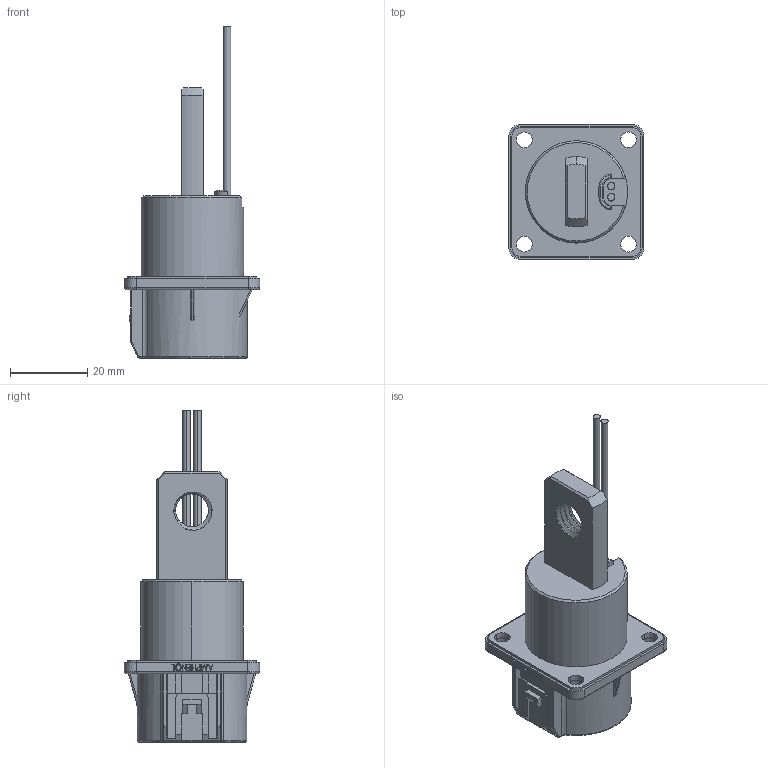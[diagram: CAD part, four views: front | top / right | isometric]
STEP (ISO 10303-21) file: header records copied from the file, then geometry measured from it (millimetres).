
FILE_DESCRIPTION (( 'STEP AP214' ), '1' );
FILE_NAME ('PL00X-301-10M10.STEP', '2016-05-04T02:59:36', ( '' ), ( '' ), 'SwSTEP 2.0', 'SolidWorks 2014', '' );
FILE_SCHEMA (( 'AUTOMOTIVE_DESIGN' ));
Length unit declared in the file: millimetre
Products named in the file (1): PL00X-301-10M10
Bounding box: 35.2 x 35 x 86 mm (x, y, z)
Volume: 23812.3 mm3; surface area: 10561.2 mm2
Topology: 1 solids, 3 shells, 402 faces, 1061 edges, 682 vertices
Faces by surface type: plane 205, cylinder 118, bspline 41, cone 38
Entity records: 18755 total; most frequent: CARTESIAN_POINT 4737, ORIENTED_EDGE 2122, DIRECTION 1936, EDGE_CURVE 1061, VERTEX_POINT 682, AXIS2_PLACEMENT_3D 652, VECTOR 632, LINE 632
